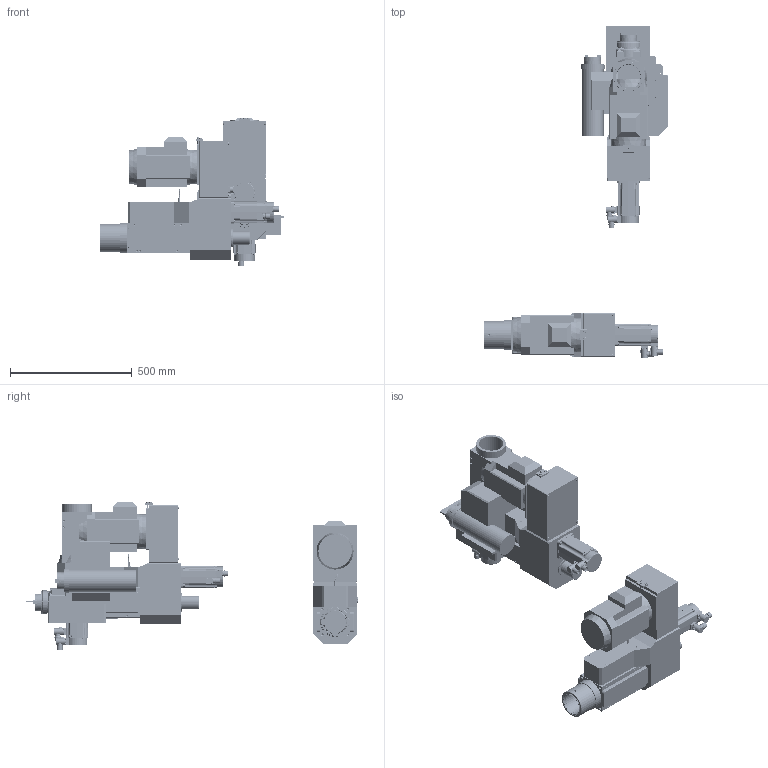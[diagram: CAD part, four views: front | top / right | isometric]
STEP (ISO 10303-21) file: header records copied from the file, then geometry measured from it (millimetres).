
FILE_DESCRIPTION( ( 'STEP AP203' ), '1' );
FILE_NAME( 'C:/Documents and Settings/Saverio/Desktop/disegni ironcad/unità serie 2/FMT 232 CN/FMT 232 CN_ISO30_A.stp', '2013-12-10T10:39:54', ( ' ' ), ( ' ' ), 'XStep 1.0', ' ', ' ' );
FILE_SCHEMA( ( 'CONFIG_CONTROL_DESIGN' ) );
Length unit declared in the file: metre
Products named in the file (45): Assem1; Assem2; Assem3; 1; 2; 3; 4; 5; 6; 7; 8; 9; 10; 11; 12; 13; 14; 15; 16; 17; 18; 19; 20; 21; 22; 23; 24; 25; 26; 27; 28; 29; 30; 31; 32; 33; 34; 35; 36; 37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
Bounding box: 756.4 x 1362.82 x 609 mm (x, y, z)
Volume: 84201243.5 mm3; surface area: 5419857.8 mm2
Topology: 152 solids, 155 shells, 5145 faces, 12663 edges, 8228 vertices
Faces by surface type: plane 2618, cylinder 1693, cone 649, torus 113, bspline 72
Full cylindrical faces by diameter (mm): 1 x18, 2 x12, 3 x6, 4 x23, 4.2 x15, 4.5 x48, 4.918 x6, 5 x33, 5.5 x12, 6 x36, 6.5 x9, 7 x53, 7.4 x24, 8 x39, 8.5 x24, 9.87 x3, 10 x15, 10.5 x6, 12 x3, 13 x9, 13.5 x24, 17.4 x3, 18.3 x3, 19 x3, 19.2 x3, 20 x21, 21.7 x6, 22.7 x6, 25 x3, 26.7 x6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
Entity records: 49441 total; most frequent: CARTESIAN_POINT 11703, DIRECTION 7540, ORIENTED_EDGE 6748, EDGE_CURVE 3374, AXIS2_PLACEMENT_3D 2903, VERTEX_POINT 2413, EDGE_LOOP 2176, FACE_OUTER_BOUND 1799
